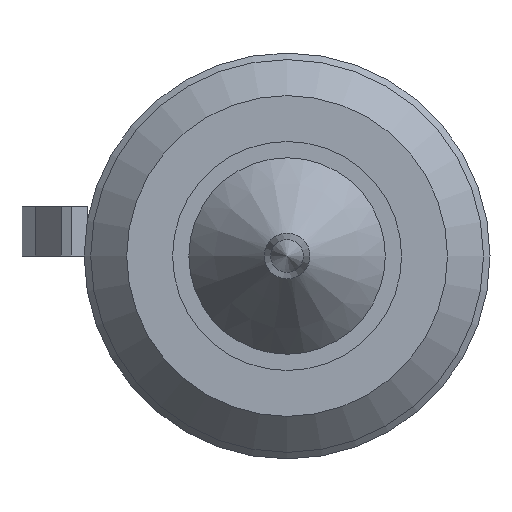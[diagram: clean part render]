
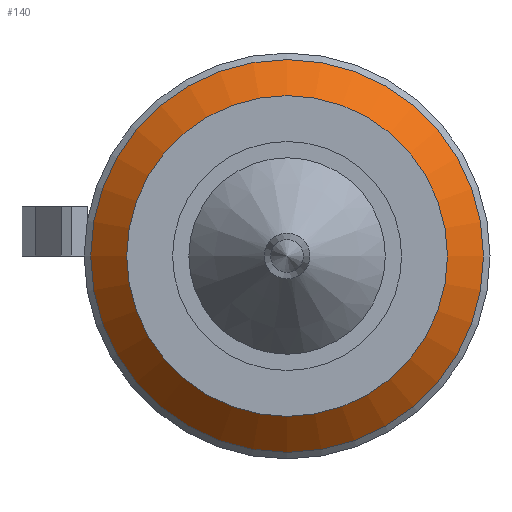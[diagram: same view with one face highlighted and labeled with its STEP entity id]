
A CAD part, left-side view. The second image highlights one B-rep face of the part: STEP entity #140.
In plain terms, the highlighted conical face has half-angle 45 degrees and reference radius 4.9 mm.
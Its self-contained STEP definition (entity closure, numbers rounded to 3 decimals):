
#31 = PLANE('',#32);
#32 = AXIS2_PLACEMENT_3D('',#33,#34,#35);
#33 = CARTESIAN_POINT('',(0.,0.,0.));
#34 = DIRECTION('',(1.,0.,0.));
#35 = DIRECTION('',(-0.,1.,0.));
#57 = EDGE_CURVE('',#58,#58,#60,.T.);
#58 = VERTEX_POINT('',#59);
#59 = CARTESIAN_POINT('',(0.,4.9,0.));
#60 = SURFACE_CURVE('',#61,(#66,#73),.PCURVE_S1.);
#61 = CIRCLE('',#62,4.9);
#62 = AXIS2_PLACEMENT_3D('',#63,#64,#65);
#63 = CARTESIAN_POINT('',(0.,0.,0.));
#64 = DIRECTION('',(1.,0.,0.));
#65 = DIRECTION('',(-0.,1.,0.));
#66 = PCURVE('',#31,#67);
#67 = DEFINITIONAL_REPRESENTATION('',(#68),#72);
#68 = CIRCLE('',#69,4.9);
#69 = AXIS2_PLACEMENT_2D('',#70,#71);
#70 = CARTESIAN_POINT('',(0.,0.));
#71 = DIRECTION('',(1.,-0.));
#72 = ( GEOMETRIC_REPRESENTATION_CONTEXT(2) 
PARAMETRIC_REPRESENTATION_CONTEXT() REPRESENTATION_CONTEXT('2D SPACE',''
  ) );
#73 = PCURVE('',#74,#79);
#74 = CONICAL_SURFACE('',#75,4.9,0.785);
#75 = AXIS2_PLACEMENT_3D('',#76,#77,#78);
#76 = CARTESIAN_POINT('',(0.,0.,0.));
#77 = DIRECTION('',(1.,0.,0.));
#78 = DIRECTION('',(-0.,1.,0.));
#79 = DEFINITIONAL_REPRESENTATION('',(#80),#84);
#80 = LINE('',#81,#82);
#81 = CARTESIAN_POINT('',(0.,0.));
#82 = VECTOR('',#83,1.);
#83 = DIRECTION('',(1.,0.));
#84 = ( GEOMETRIC_REPRESENTATION_CONTEXT(2) 
PARAMETRIC_REPRESENTATION_CONTEXT() REPRESENTATION_CONTEXT('2D SPACE',''
  ) );
#140 = ADVANCED_FACE('',(#141),#74,.T.);
#141 = FACE_BOUND('',#142,.T.);
#142 = EDGE_LOOP('',(#143,#144,#167,#194));
#143 = ORIENTED_EDGE('',*,*,#57,.T.);
#144 = ORIENTED_EDGE('',*,*,#145,.T.);
#145 = EDGE_CURVE('',#58,#146,#148,.T.);
#146 = VERTEX_POINT('',#147);
#147 = CARTESIAN_POINT('',(1.1,6.,0.));
#148 = SEAM_CURVE('',#149,(#153,#160),.PCURVE_S1.);
#149 = LINE('',#150,#151);
#150 = CARTESIAN_POINT('',(0.,4.9,0.));
#151 = VECTOR('',#152,1.);
#152 = DIRECTION('',(0.707,0.707,0.));
#153 = PCURVE('',#74,#154);
#154 = DEFINITIONAL_REPRESENTATION('',(#155),#159);
#155 = LINE('',#156,#157);
#156 = CARTESIAN_POINT('',(0.,0.));
#157 = VECTOR('',#158,1.);
#158 = DIRECTION('',(0.,1.));
#159 = ( GEOMETRIC_REPRESENTATION_CONTEXT(2) 
PARAMETRIC_REPRESENTATION_CONTEXT() REPRESENTATION_CONTEXT('2D SPACE',''
  ) );
#160 = PCURVE('',#74,#161);
#161 = DEFINITIONAL_REPRESENTATION('',(#162),#166);
#162 = LINE('',#163,#164);
#163 = CARTESIAN_POINT('',(6.283,0.));
#164 = VECTOR('',#165,1.);
#165 = DIRECTION('',(0.,1.));
#166 = ( GEOMETRIC_REPRESENTATION_CONTEXT(2) 
PARAMETRIC_REPRESENTATION_CONTEXT() REPRESENTATION_CONTEXT('2D SPACE',''
  ) );
#167 = ORIENTED_EDGE('',*,*,#168,.F.);
#168 = EDGE_CURVE('',#146,#146,#169,.T.);
#169 = SURFACE_CURVE('',#170,(#175,#182),.PCURVE_S1.);
#170 = CIRCLE('',#171,6.);
#171 = AXIS2_PLACEMENT_3D('',#172,#173,#174);
#172 = CARTESIAN_POINT('',(1.1,0.,0.));
#173 = DIRECTION('',(1.,0.,0.));
#174 = DIRECTION('',(-0.,1.,0.));
#175 = PCURVE('',#74,#176);
#176 = DEFINITIONAL_REPRESENTATION('',(#177),#181);
#177 = LINE('',#178,#179);
#178 = CARTESIAN_POINT('',(0.,1.1));
#179 = VECTOR('',#180,1.);
#180 = DIRECTION('',(1.,0.));
#181 = ( GEOMETRIC_REPRESENTATION_CONTEXT(2) 
PARAMETRIC_REPRESENTATION_CONTEXT() REPRESENTATION_CONTEXT('2D SPACE',''
  ) );
#182 = PCURVE('',#183,#188);
#183 = CYLINDRICAL_SURFACE('',#184,6.);
#184 = AXIS2_PLACEMENT_3D('',#185,#186,#187);
#185 = CARTESIAN_POINT('',(1.1,0.,0.));
#186 = DIRECTION('',(1.,0.,0.));
#187 = DIRECTION('',(-0.,1.,0.));
#188 = DEFINITIONAL_REPRESENTATION('',(#189),#193);
#189 = LINE('',#190,#191);
#190 = CARTESIAN_POINT('',(0.,0.));
#191 = VECTOR('',#192,1.);
#192 = DIRECTION('',(1.,0.));
#193 = ( GEOMETRIC_REPRESENTATION_CONTEXT(2) 
PARAMETRIC_REPRESENTATION_CONTEXT() REPRESENTATION_CONTEXT('2D SPACE',''
  ) );
#194 = ORIENTED_EDGE('',*,*,#145,.F.);
